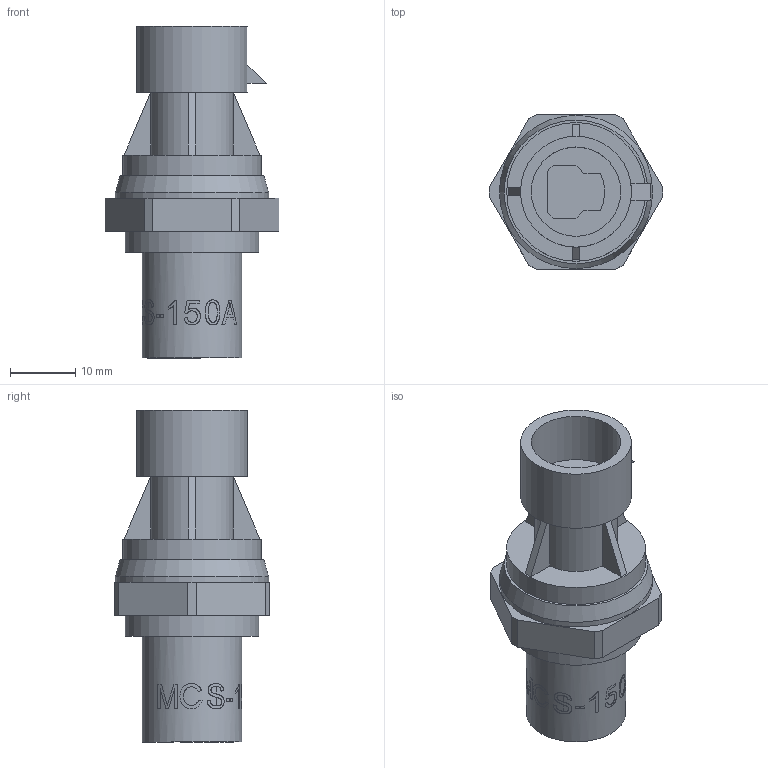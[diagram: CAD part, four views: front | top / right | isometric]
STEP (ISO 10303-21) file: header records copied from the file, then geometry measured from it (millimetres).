
FILE_DESCRIPTION(/* description */ (''),/* implementation_level */ '2;1');
FILE_NAME(/* name */ 'D:\MCS - SERVER ORGANIZATION\Drawings - Mcs Hardware\Boards & Electrical Parts\MCS-Pressure Transducer\MCS-150A.stp',/* time_stamp */ '2015-10-06T10:57:57-04:00',/* author */ ('Ian L Mitchell'),/* organization */ (''),/* preprocessor_version */ 'ST-DEVELOPER v15.2',/* originating_system */ 'Autodesk Inventor 2014',/* authorisation */ '');
FILE_SCHEMA (('AUTOMOTIVE_DESIGN { 1 0 10303 214 3 1 1 }'));
Length unit declared in the file: inch
Products named in the file (1): MCS-150A
Bounding box: 26.67 x 23.75 x 50.93 mm (x, y, z)
Volume: 9943.8 mm3; surface area: 6050.9 mm2
Topology: 10 solids, 10 shells, 933 faces, 2685 edges, 1790 vertices
Faces by surface type: plane 881, cylinder 44, bspline 6, cone 2
Full cylindrical faces by diameter (mm): 13.716 x1, 15.24 x1, 17.018 x1, 20.46 x1, 21.273 x1, 23.495 x1
Entity records: 32786 total; most frequent: CARTESIAN_POINT 6871, DIRECTION 6031, ORIENTED_EDGE 5334, EDGE_CURVE 2667, AXIS2_PLACEMENT_3D 2454, VERTEX_POINT 1783, ELLIPSE 1288, LINE 1123
